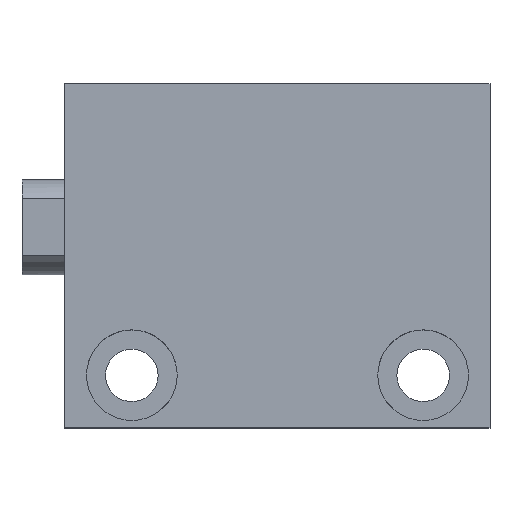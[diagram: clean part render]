
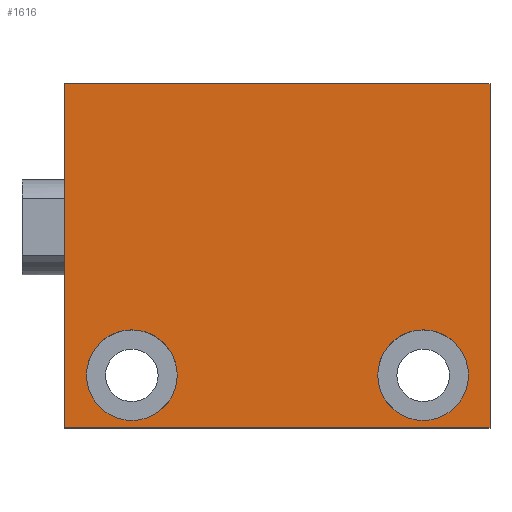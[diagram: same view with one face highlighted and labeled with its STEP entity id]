
A CAD part, top view. The second image highlights one B-rep face of the part: STEP entity #1616.
In plain terms, the highlighted planar face has unit normal (0, 0, 1).
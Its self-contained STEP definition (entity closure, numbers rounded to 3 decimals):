
#21 = EDGE_CURVE ( 'NONE', #1952, #741, #1754, .T. ) ;
#24 = DIRECTION ( 'NONE',  ( 1., 0., 0. ) ) ;
#28 = ORIENTED_EDGE ( 'NONE', *, *, #43, .F. ) ;
#31 = DIRECTION ( 'NONE',  ( 0., 0., 1. ) ) ;
#43 = EDGE_CURVE ( 'NONE', #3241, #1672, #2095, .T. ) ;
#78 = LINE ( 'NONE', #1039, #1028 ) ;
#112 = DIRECTION ( 'NONE',  ( 1., 0., 0. ) ) ;
#189 = EDGE_CURVE ( 'NONE', #1672, #3241, #1308, .T. ) ;
#246 = EDGE_CURVE ( 'NONE', #903, #2405, #3249, .T. ) ;
#259 = CARTESIAN_POINT ( 'NONE',  ( 11.75, -15.5, 12.5 ) ) ;
#292 = CIRCLE ( 'NONE', #817, 4.75 ) ;
#297 = FACE_OUTER_BOUND ( 'NONE', #618, .T. ) ;
#329 = ORIENTED_EDGE ( 'NONE', *, *, #3137, .T. ) ;
#333 = DIRECTION ( 'NONE',  ( 0., 0., 1. ) ) ;
#403 = AXIS2_PLACEMENT_3D ( 'NONE', #1303, #1049, #666 ) ;
#417 = CARTESIAN_POINT ( 'NONE',  ( 0., 15., 12.5 ) ) ;
#484 = FACE_BOUND ( 'NONE', #2571, .T. ) ;
#486 = CARTESIAN_POINT ( 'NONE',  ( 44.5, 15., 12.5 ) ) ;
#500 = DIRECTION ( 'NONE',  ( -1., 0., 0. ) ) ;
#597 = CARTESIAN_POINT ( 'NONE',  ( 7., -15.5, 12.5 ) ) ;
#618 = EDGE_LOOP ( 'NONE', ( #2159, #3229, #329, #696 ) ) ;
#655 = CARTESIAN_POINT ( 'NONE',  ( 32.75, -15.5, 12.5 ) ) ;
#666 = DIRECTION ( 'NONE',  ( 1., 0., 0. ) ) ;
#667 = LINE ( 'NONE', #1657, #2887 ) ;
#686 = CARTESIAN_POINT ( 'NONE',  ( 44.5, -21., 12.5 ) ) ;
#696 = ORIENTED_EDGE ( 'NONE', *, *, #21, .T. ) ;
#741 = VERTEX_POINT ( 'NONE', #417 ) ;
#754 = LINE ( 'NONE', #686, #2368 ) ;
#817 = AXIS2_PLACEMENT_3D ( 'NONE', #2439, #2911, #112 ) ;
#903 = VERTEX_POINT ( 'NONE', #655 ) ;
#1010 = DIRECTION ( 'NONE',  ( 0., 1., 0. ) ) ;
#1028 = VECTOR ( 'NONE', #1290, 1000. ) ;
#1039 = CARTESIAN_POINT ( 'NONE',  ( 44.5, -21., 12.5 ) ) ;
#1049 = DIRECTION ( 'NONE',  ( 0., 0., 1. ) ) ;
#1107 = EDGE_CURVE ( 'NONE', #1184, #741, #667, .T. ) ;
#1183 = CARTESIAN_POINT ( 'NONE',  ( 44.5, -21., 12.5 ) ) ;
#1184 = VERTEX_POINT ( 'NONE', #2749 ) ;
#1290 = DIRECTION ( 'NONE',  ( -1., 0., 0. ) ) ;
#1303 = CARTESIAN_POINT ( 'NONE',  ( 37.5, -15.5, 12.5 ) ) ;
#1308 = CIRCLE ( 'NONE', #3088, 4.75 ) ;
#1320 = DIRECTION ( 'NONE',  ( 1., 0., 0. ) ) ;
#1473 = EDGE_LOOP ( 'NONE', ( #2104, #2731 ) ) ;
#1497 = PLANE ( 'NONE',  #1659 ) ;
#1585 = ORIENTED_EDGE ( 'NONE', *, *, #189, .F. ) ;
#1616 = ADVANCED_FACE ( 'NONE', ( #297, #2005, #484 ), #1497, .T. ) ;
#1647 = CARTESIAN_POINT ( 'NONE',  ( 42.25, -15.5, 12.5 ) ) ;
#1657 = CARTESIAN_POINT ( 'NONE',  ( 0., -21., 12.5 ) ) ;
#1659 = AXIS2_PLACEMENT_3D ( 'NONE', #2497, #31, #1010 ) ;
#1672 = VERTEX_POINT ( 'NONE', #3001 ) ;
#1754 = LINE ( 'NONE', #2755, #2568 ) ;
#1871 = DIRECTION ( 'NONE',  ( 0., 1., 0. ) ) ;
#1952 = VERTEX_POINT ( 'NONE', #486 ) ;
#2005 = FACE_BOUND ( 'NONE', #1473, .T. ) ;
#2095 = CIRCLE ( 'NONE', #2413, 4.75 ) ;
#2103 = CARTESIAN_POINT ( 'NONE',  ( 7., -15.5, 12.5 ) ) ;
#2104 = ORIENTED_EDGE ( 'NONE', *, *, #2379, .F. ) ;
#2159 = ORIENTED_EDGE ( 'NONE', *, *, #1107, .F. ) ;
#2168 = EDGE_CURVE ( 'NONE', #3191, #1184, #78, .T. ) ;
#2368 = VECTOR ( 'NONE', #2451, 1000. ) ;
#2379 = EDGE_CURVE ( 'NONE', #2405, #903, #292, .T. ) ;
#2405 = VERTEX_POINT ( 'NONE', #1647 ) ;
#2413 = AXIS2_PLACEMENT_3D ( 'NONE', #597, #333, #1320 ) ;
#2439 = CARTESIAN_POINT ( 'NONE',  ( 37.5, -15.5, 12.5 ) ) ;
#2451 = DIRECTION ( 'NONE',  ( 0., 1., 0. ) ) ;
#2497 = CARTESIAN_POINT ( 'NONE',  ( 44.5, -21., 12.5 ) ) ;
#2568 = VECTOR ( 'NONE', #500, 1000. ) ;
#2571 = EDGE_LOOP ( 'NONE', ( #28, #1585 ) ) ;
#2731 = ORIENTED_EDGE ( 'NONE', *, *, #246, .F. ) ;
#2749 = CARTESIAN_POINT ( 'NONE',  ( 0., -21., 12.5 ) ) ;
#2755 = CARTESIAN_POINT ( 'NONE',  ( 44.5, 15., 12.5 ) ) ;
#2887 = VECTOR ( 'NONE', #1871, 1000. ) ;
#2911 = DIRECTION ( 'NONE',  ( 0., 0., 1. ) ) ;
#3001 = CARTESIAN_POINT ( 'NONE',  ( 2.25, -15.5, 12.5 ) ) ;
#3088 = AXIS2_PLACEMENT_3D ( 'NONE', #2103, #3105, #24 ) ;
#3105 = DIRECTION ( 'NONE',  ( 0., 0., 1. ) ) ;
#3137 = EDGE_CURVE ( 'NONE', #3191, #1952, #754, .T. ) ;
#3191 = VERTEX_POINT ( 'NONE', #1183 ) ;
#3229 = ORIENTED_EDGE ( 'NONE', *, *, #2168, .F. ) ;
#3241 = VERTEX_POINT ( 'NONE', #259 ) ;
#3249 = CIRCLE ( 'NONE', #403, 4.75 ) ;
